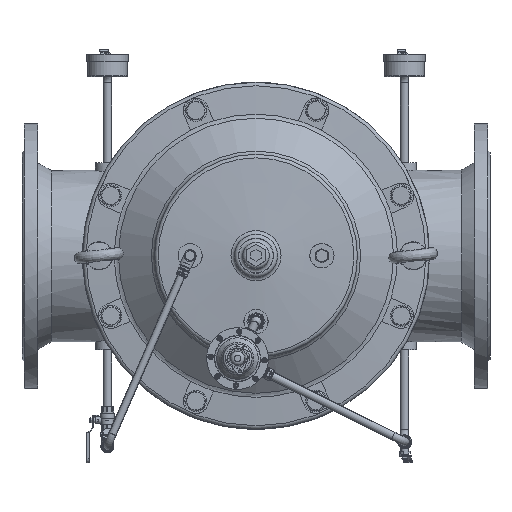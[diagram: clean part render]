
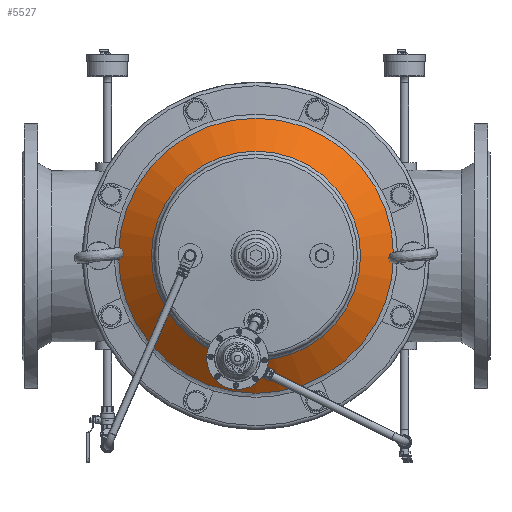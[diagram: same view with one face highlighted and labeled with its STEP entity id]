
A CAD part, top view. The second image highlights one B-rep face of the part: STEP entity #5527.
In plain terms, the highlighted conical face has half-angle 53.358 degrees and reference radius 155.206 mm.
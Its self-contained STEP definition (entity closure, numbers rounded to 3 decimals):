
#5527=ADVANCED_FACE('',(#18825,#18827),#18829,.T.);
#18825=FACE_OUTER_BOUND('',#18826,.T.);
#18826=EDGE_LOOP('',(#42588));
#18827=FACE_OUTER_BOUND('',#18828,.T.);
#18828=EDGE_LOOP('',(#42589));
#18829=CONICAL_SURFACE('',#18830,155.206,0.931);
#18830=AXIS2_PLACEMENT_3D('',#18831,#18832,#18833);
#18831=CARTESIAN_POINT('',(0.,-31.277,0.));
#18832=DIRECTION('',(0.,1.,0.));
#18833=DIRECTION('',(-1.,0.,0.));
#42588=ORIENTED_EDGE('',*,*,#49411,.F.);
#42589=ORIENTED_EDGE('',*,*,#49397,.F.);
#49397=EDGE_CURVE('',#54269,#54269,#54270,.T.);
#49411=EDGE_CURVE('',#54297,#54297,#54298,.F.);
#54269=VERTEX_POINT('',#79038);
#54270=CIRCLE('',#79039,134.032);
#54297=VERTEX_POINT('',#79108);
#54298=CIRCLE('',#79109,176.38);
#79038=CARTESIAN_POINT('',(134.032,-47.026,0.));
#79039=AXIS2_PLACEMENT_3D('',#79040,#79041,#79042);
#79040=CARTESIAN_POINT('',(0.,-47.026,0.));
#79041=DIRECTION('',(0.,-1.,0.));
#79042=DIRECTION('',(1.,0.,0.));
#79108=CARTESIAN_POINT('',(176.38,-15.527,0.));
#79109=AXIS2_PLACEMENT_3D('',#79110,#79111,#79112);
#79110=CARTESIAN_POINT('',(0.,-15.527,0.));
#79111=DIRECTION('',(0.,-1.,0.));
#79112=DIRECTION('',(1.,0.,0.));
